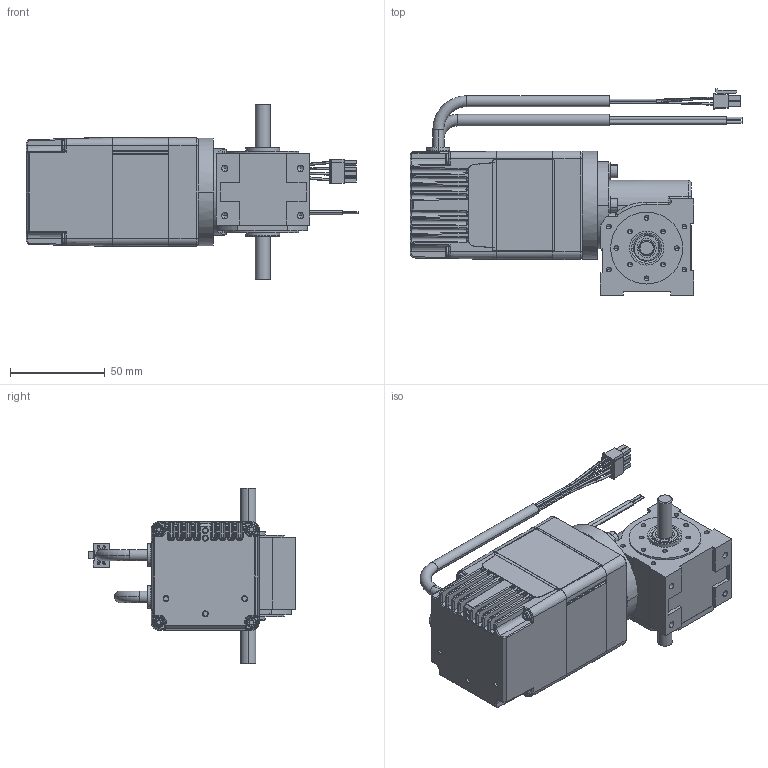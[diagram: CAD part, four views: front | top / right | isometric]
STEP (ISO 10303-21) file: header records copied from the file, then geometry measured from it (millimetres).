
FILE_DESCRIPTION (( 'STEP AP214' ), '1' );
FILE_NAME ('GP-SN15 R 77W - 1+2.STEP', '2023-05-25T13:09:07', ( '' ), ( '' ), 'SwSTEP 2.0', 'SolidWorks 2021', '' );
FILE_SCHEMA (( 'AUTOMOTIVE_DESIGN' ));
Length unit declared in the file: millimetre
Products named in the file (16): SN15_3D-Export_Welle 1+2; hexa csunk flathd screw_iso_ISO 14581 M3x8x8-N; xa010873_1_5; 15-G-005_3D-Export; 15-D-004_3D-Export; NBR_WDR_8x14x4; xa010873_1_6; plain washer normal grade a_iso_Washer ISO 7089 - 4; socket head cap screw_iso_ISO 4762 M4 x 12 - 12C; xa010873_1_3; xa010873_1_4; xa010873_1; xa010873_1_2; 15-M-024 I 77W_4000Upm; 15-W-015_3D-Export; GP-SN15 R 77W - 1+2
Assembly tree (23 placements, depth 3):
  GP-SN15 R 77W - 1+2
    SN15_3D-Export_Welle 1+2
      15-G-005_3D-Export
      15-D-004_3D-Export
      NBR_WDR_8x14x4  x2
      hexa csunk flathd screw_iso_ISO 14581 M3x8x8-N  x4
      plain washer normal grade a_iso_Washer ISO 7089 - 4  x3
      socket head cap screw_iso_ISO 4762 M4 x 12 - 12C  x3
      15-W-015_3D-Export
    15-M-024 I 77W_4000Upm
      xa010873_1
      xa010873_1_3
      xa010873_1_6
      xa010873_1_5
      xa010873_1_4
      xa010873_1_2
Bounding box: 175.45 x 109.33 x 93 mm (x, y, z)
Volume: 425269.1 mm3; surface area: 83211.9 mm2
Topology: 21 solids, 21 shells, 1574 faces, 3820 edges, 2314 vertices
Faces by surface type: cylinder 595, plane 494, cone 226, bspline 106, torus 83, sphere 70
Entity records: 53338 total; most frequent: CARTESIAN_POINT 20348, ORIENTED_EDGE 6680, DIRECTION 6470, EDGE_CURVE 3340, AXIS2_PLACEMENT_3D 2405, VERTEX_POINT 2066, VECTOR 1660, LINE 1660
